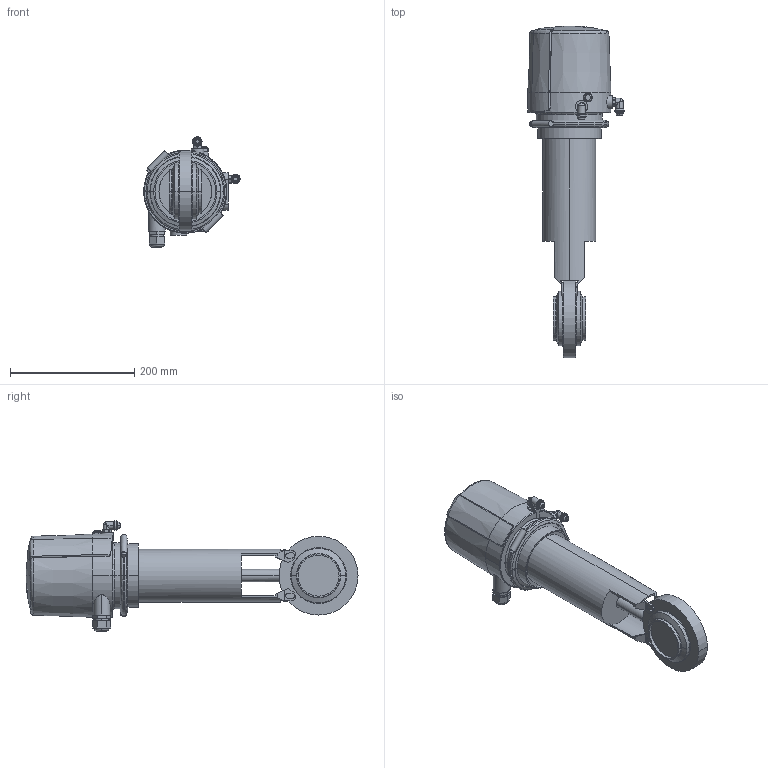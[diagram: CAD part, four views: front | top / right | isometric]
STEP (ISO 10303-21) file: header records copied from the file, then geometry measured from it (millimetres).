
FILE_DESCRIPTION(('Creo Elements/Direct Modeling STEP Export'),'2;1');
FILE_NAME('SV1-65-CU4-12S.stp','2013-02-21T13:09:40',(''),(''),'Creo Elements/Direct Modeling STEP processor for AP214 (Solid Model)','Creo Elements/Direct Modeling 17.0D 15-Jul-2011 (C) Parametric Technology GmbH','');
FILE_SCHEMA(('AUTOMOTIVE_DESIGN { 1 0 10303 214 1 1 1 1 }'));
Length unit declared in the file: millimetre
Products named in the file (3): SV1-65-FZ-12S; CU41-mit-T-Adapter; SV1-65-CU4-12S.stp
Assembly tree (2 placements, depth 2):
  SV1-65-CU4-12S.stp
    CU41-mit-T-Adapter
    SV1-65-FZ-12S
Bounding box: 155.4 x 534.55 x 177.6 mm (x, y, z)
Volume: 3481405.4 mm3; surface area: 258502.4 mm2
Topology: 2 solids, 8 shells, 451 faces, 1125 edges, 711 vertices
Faces by surface type: plane 209, cylinder 139, torus 47, cone 40, bspline 10, sphere 6
Entity records: 21343 total; most frequent: CARTESIAN_POINT 10348, ORIENTED_EDGE 2262, DIRECTION 1991, EDGE_CURVE 1123, AXIS2_PLACEMENT_3D 753, VERTEX_POINT 711, EDGE_LOOP 500, VECTOR 485
